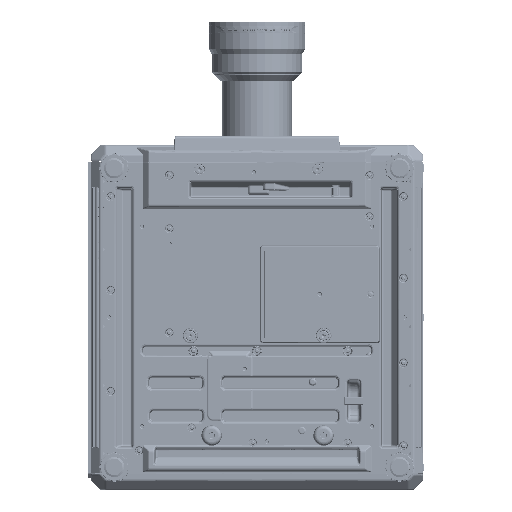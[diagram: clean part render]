
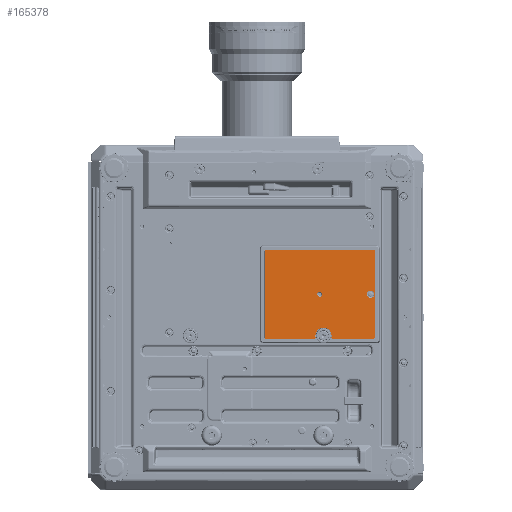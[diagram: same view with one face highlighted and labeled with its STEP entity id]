
A CAD part, front view. The second image highlights one B-rep face of the part: STEP entity #165378.
In plain terms, the highlighted planar face has unit normal (0, -1, 0).
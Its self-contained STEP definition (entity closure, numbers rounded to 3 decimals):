
#88278=ELLIPSE('',#361503,1.504,1.5);
#88279=ELLIPSE('',#361504,1.504,1.5);
#88280=ELLIPSE('',#361506,1.504,1.5);
#88281=ELLIPSE('',#361507,1.504,1.5);
#93322=PLANE('',#361508);
#128611=LINE('',#565866,#154745);
#128612=LINE('',#565871,#154746);
#128613=LINE('',#565875,#154747);
#128614=LINE('',#565919,#154748);
#128615=LINE('',#565923,#154749);
#154745=VECTOR('',#436727,1.);
#154746=VECTOR('',#436730,1.);
#154747=VECTOR('',#436733,1.);
#154748=VECTOR('',#436736,1.);
#154749=VECTOR('',#436739,1.);
#165378=ADVANCED_FACE('',(#172929,#172930,#172931),#93322,.F.);
#170161=B_SPLINE_CURVE_WITH_KNOTS('',3,(#565877,#565878,#565879,#565880,
#565881,#565882,#565883,#565884,#565885,#565886,#565887,#565888,#565889,
#565890,#565891,#565892,#565893,#565894,#565895),.UNSPECIFIED.,.F.,.F.,
(4,3,3,3,3,3,4),(0.,0.054,0.243,0.432,
0.621,0.811,1.),.UNSPECIFIED.);
#170162=B_SPLINE_CURVE_WITH_KNOTS('',3,(#565899,#565900,#565901,#565902,
#565903,#565904,#565905,#565906,#565907,#565908,#565909,#565910,#565911,
#565912,#565913,#565914,#565915,#565916,#565917),.UNSPECIFIED.,.F.,.F.,
(4,3,3,3,3,3,4),(0.,0.054,0.243,0.432,
0.621,0.811,1.),.UNSPECIFIED.);
#172929=FACE_BOUND('',#184930,.T.);
#172930=FACE_BOUND('',#184931,.T.);
#172931=FACE_BOUND('',#184932,.T.);
#184930=EDGE_LOOP('',(#240281));
#184931=EDGE_LOOP('',(#240282));
#184932=EDGE_LOOP('',(#240283,#240284,#240285,#240286,#240287,#240288,#240289,
#240290,#240291,#240292,#240293,#240294));
#240281=ORIENTED_EDGE('',*,*,#325648,.T.);
#240282=ORIENTED_EDGE('',*,*,#325649,.T.);
#240283=ORIENTED_EDGE('',*,*,#325650,.T.);
#240284=ORIENTED_EDGE('',*,*,#325651,.T.);
#240285=ORIENTED_EDGE('',*,*,#325652,.T.);
#240286=ORIENTED_EDGE('',*,*,#325653,.T.);
#240287=ORIENTED_EDGE('',*,*,#325654,.T.);
#240288=ORIENTED_EDGE('',*,*,#325655,.T.);
#240289=ORIENTED_EDGE('',*,*,#325656,.T.);
#240290=ORIENTED_EDGE('',*,*,#325657,.T.);
#240291=ORIENTED_EDGE('',*,*,#325658,.T.);
#240292=ORIENTED_EDGE('',*,*,#325659,.T.);
#240293=ORIENTED_EDGE('',*,*,#325660,.T.);
#240294=ORIENTED_EDGE('',*,*,#325661,.T.);
#278981=VERTEX_POINT('',#565862);
#278982=VERTEX_POINT('',#565865);
#278983=VERTEX_POINT('',#565867);
#278984=VERTEX_POINT('',#565868);
#278985=VERTEX_POINT('',#565870);
#278986=VERTEX_POINT('',#565872);
#278987=VERTEX_POINT('',#565874);
#278988=VERTEX_POINT('',#565876);
#278989=VERTEX_POINT('',#565896);
#278990=VERTEX_POINT('',#565898);
#278991=VERTEX_POINT('',#565918);
#278992=VERTEX_POINT('',#565920);
#278993=VERTEX_POINT('',#565922);
#278994=VERTEX_POINT('',#565924);
#325648=EDGE_CURVE('',#278981,#278981,#336511,.T.);
#325649=EDGE_CURVE('',#278982,#278982,#336512,.T.);
#325650=EDGE_CURVE('',#278983,#278984,#128611,.T.);
#325651=EDGE_CURVE('',#278984,#278985,#88278,.T.);
#325652=EDGE_CURVE('',#278985,#278986,#128612,.T.);
#325653=EDGE_CURVE('',#278986,#278987,#88279,.T.);
#325654=EDGE_CURVE('',#278987,#278988,#128613,.T.);
#325655=EDGE_CURVE('',#278988,#278989,#170161,.T.);
#325656=EDGE_CURVE('',#278989,#278990,#336513,.T.);
#325657=EDGE_CURVE('',#278990,#278991,#170162,.T.);
#325658=EDGE_CURVE('',#278991,#278992,#128614,.T.);
#325659=EDGE_CURVE('',#278992,#278993,#88280,.T.);
#325660=EDGE_CURVE('',#278993,#278994,#128615,.T.);
#325661=EDGE_CURVE('',#278994,#278983,#88281,.T.);
#336511=CIRCLE('',#361500,4.);
#336512=CIRCLE('',#361502,6.125);
#336513=CIRCLE('',#361505,13.358);
#361500=AXIS2_PLACEMENT_3D('',#565861,#436721,#436722);
#361502=AXIS2_PLACEMENT_3D('',#565864,#436725,#436726);
#361503=AXIS2_PLACEMENT_3D('',#565869,#436728,#436729);
#361504=AXIS2_PLACEMENT_3D('',#565873,#436731,#436732);
#361505=AXIS2_PLACEMENT_3D('',#565897,#436734,#436735);
#361506=AXIS2_PLACEMENT_3D('',#565921,#436737,#436738);
#361507=AXIS2_PLACEMENT_3D('',#565925,#436740,#436741);
#361508=AXIS2_PLACEMENT_3D('',#565926,#436742,#436743);
#436721=DIRECTION('',(0.,1.,0.));
#436722=DIRECTION('',(0.,0.,1.));
#436725=DIRECTION('',(0.,1.,0.));
#436726=DIRECTION('',(0.,0.,1.));
#436727=DIRECTION('',(-1.,0.,0.));
#436728=DIRECTION('',(0.,-1.,0.));
#436729=DIRECTION('',(0.707,0.,-0.707));
#436730=DIRECTION('',(0.,0.,-1.));
#436731=DIRECTION('',(0.,-1.,0.));
#436732=DIRECTION('',(-0.707,0.,-0.707));
#436733=DIRECTION('',(1.,0.,0.));
#436734=DIRECTION('',(0.,1.,0.));
#436735=DIRECTION('',(0.,0.,1.));
#436736=DIRECTION('',(1.,0.,0.));
#436737=DIRECTION('',(0.,-1.,0.));
#436738=DIRECTION('',(-0.707,0.,0.707));
#436739=DIRECTION('',(0.,0.,1.));
#436740=DIRECTION('',(0.,-1.,0.));
#436741=DIRECTION('',(-0.707,0.,-0.707));
#436742=DIRECTION('',(0.,1.,0.));
#436743=DIRECTION('',(0.,0.,1.));
#565861=CARTESIAN_POINT('',(103.8,-116.5,-1.5));
#565862=CARTESIAN_POINT('',(103.8,-116.5,2.5));
#565864=CARTESIAN_POINT('',(187.8,-116.5,-1.5));
#565865=CARTESIAN_POINT('',(187.8,-116.5,4.625));
#565866=CARTESIAN_POINT('',(110.,-116.5,71.642));
#565867=CARTESIAN_POINT('',(193.644,-116.5,71.642));
#565868=CARTESIAN_POINT('',(14.356,-116.5,71.642));
#565869=CARTESIAN_POINT('',(14.36,-116.5,70.14));
#565870=CARTESIAN_POINT('',(12.858,-116.5,70.144));
#565871=CARTESIAN_POINT('',(12.858,-116.5,-70.));
#565872=CARTESIAN_POINT('',(12.858,-116.5,-73.144));
#565873=CARTESIAN_POINT('',(14.36,-116.5,-73.14));
#565874=CARTESIAN_POINT('',(14.356,-116.5,-74.642));
#565875=CARTESIAN_POINT('',(110.,-116.5,-74.642));
#565876=CARTESIAN_POINT('',(95.481,-116.5,-74.642));
#565877=CARTESIAN_POINT('',(95.481,-116.5,-74.642));
#565878=CARTESIAN_POINT('',(95.529,-116.5,-74.642));
#565879=CARTESIAN_POINT('',(95.578,-116.5,-74.64));
#565880=CARTESIAN_POINT('',(95.627,-116.5,-74.635));
#565881=CARTESIAN_POINT('',(95.794,-116.5,-74.619));
#565882=CARTESIAN_POINT('',(95.96,-116.5,-74.574));
#565883=CARTESIAN_POINT('',(96.112,-116.5,-74.503));
#565884=CARTESIAN_POINT('',(96.264,-116.5,-74.433));
#565885=CARTESIAN_POINT('',(96.405,-116.5,-74.335));
#565886=CARTESIAN_POINT('',(96.525,-116.5,-74.219));
#565887=CARTESIAN_POINT('',(96.645,-116.5,-74.102));
#565888=CARTESIAN_POINT('',(96.747,-116.5,-73.963));
#565889=CARTESIAN_POINT('',(96.822,-116.5,-73.813));
#565890=CARTESIAN_POINT('',(96.897,-116.5,-73.662));
#565891=CARTESIAN_POINT('',(96.947,-116.5,-73.497));
#565892=CARTESIAN_POINT('',(96.967,-116.5,-73.33));
#565893=CARTESIAN_POINT('',(96.988,-116.5,-73.164));
#565894=CARTESIAN_POINT('',(96.98,-116.5,-72.991));
#565895=CARTESIAN_POINT('',(96.945,-116.5,-72.827));
#565896=CARTESIAN_POINT('',(96.945,-116.5,-72.827));
#565897=CARTESIAN_POINT('',(110.,-116.5,-70.));
#565898=CARTESIAN_POINT('',(123.055,-116.5,-72.827));
#565899=CARTESIAN_POINT('',(123.055,-116.5,-72.827));
#565900=CARTESIAN_POINT('',(123.045,-116.5,-72.875));
#565901=CARTESIAN_POINT('',(123.037,-116.5,-72.923));
#565902=CARTESIAN_POINT('',(123.031,-116.5,-72.972));
#565903=CARTESIAN_POINT('',(123.012,-116.5,-73.138));
#565904=CARTESIAN_POINT('',(123.021,-116.5,-73.31));
#565905=CARTESIAN_POINT('',(123.058,-116.5,-73.473));
#565906=CARTESIAN_POINT('',(123.094,-116.5,-73.637));
#565907=CARTESIAN_POINT('',(123.159,-116.5,-73.796));
#565908=CARTESIAN_POINT('',(123.248,-116.5,-73.938));
#565909=CARTESIAN_POINT('',(123.337,-116.5,-74.08));
#565910=CARTESIAN_POINT('',(123.451,-116.5,-74.209));
#565911=CARTESIAN_POINT('',(123.582,-116.5,-74.313));
#565912=CARTESIAN_POINT('',(123.713,-116.5,-74.418));
#565913=CARTESIAN_POINT('',(123.864,-116.5,-74.502));
#565914=CARTESIAN_POINT('',(124.023,-116.5,-74.558));
#565915=CARTESIAN_POINT('',(124.181,-116.5,-74.613));
#565916=CARTESIAN_POINT('',(124.351,-116.5,-74.642));
#565917=CARTESIAN_POINT('',(124.519,-116.5,-74.642));
#565918=CARTESIAN_POINT('',(124.519,-116.5,-74.642));
#565919=CARTESIAN_POINT('',(110.,-116.5,-74.642));
#565920=CARTESIAN_POINT('',(193.644,-116.5,-74.642));
#565921=CARTESIAN_POINT('',(193.64,-116.5,-73.14));
#565922=CARTESIAN_POINT('',(195.142,-116.5,-73.144));
#565923=CARTESIAN_POINT('',(195.142,-116.5,-70.));
#565924=CARTESIAN_POINT('',(195.142,-116.5,70.144));
#565925=CARTESIAN_POINT('',(193.64,-116.5,70.14));
#565926=CARTESIAN_POINT('',(110.,-116.5,-70.));
